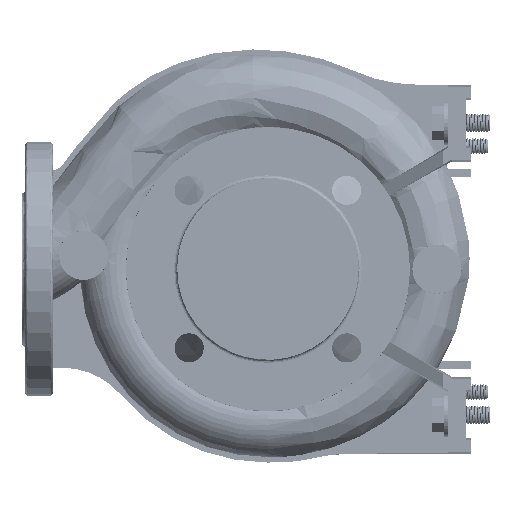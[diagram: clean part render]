
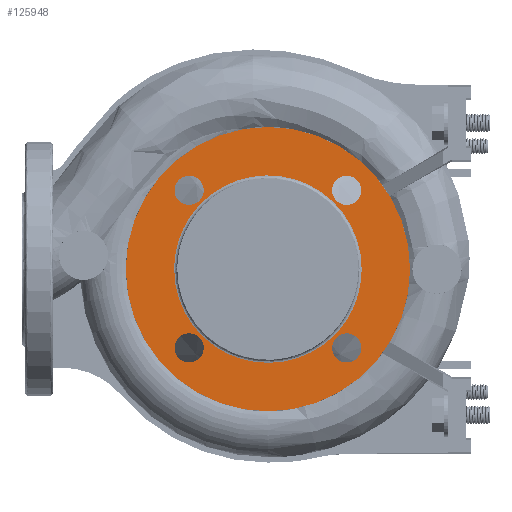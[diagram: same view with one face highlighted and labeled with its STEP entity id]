
A CAD part, left-side view. The second image highlights one B-rep face of the part: STEP entity #125948.
In plain terms, the highlighted planar face has unit normal (-1, 0, 0).
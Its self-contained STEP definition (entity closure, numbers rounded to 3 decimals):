
#1210 = DIRECTION ( 'NONE',  ( 0., 0., 1. ) ) ;
#3000 = CIRCLE ( 'NONE', #141566, 9.5 ) ;
#5087 = VERTEX_POINT ( 'NONE', #12984 ) ;
#7118 = CIRCLE ( 'NONE', #175030, 9.5 ) ;
#8413 = CARTESIAN_POINT ( 'NONE',  ( -35.097, 159.44, 365.134 ) ) ;
#8623 = AXIS2_PLACEMENT_3D ( 'NONE', #37913, #94169, #150460 ) ;
#12984 = CARTESIAN_POINT ( 'NONE',  ( -35.097, 47.175, 201.369 ) ) ;
#13659 = CARTESIAN_POINT ( 'NONE',  ( -35.097, 98.44, 243.134 ) ) ;
#13784 = EDGE_CURVE ( 'NONE', #130124, #5087, #128079, .T. ) ;
#15324 =( BOUNDED_CURVE ( )  B_SPLINE_CURVE ( 3, ( #129895, #41423, #143743, #140123 ),
 .UNSPECIFIED., .F., .T. ) 
 B_SPLINE_CURVE_WITH_KNOTS ( ( 4, 4 ),
 ( 0., 1. ),
 .UNSPECIFIED. ) 
 CURVE ( )  GEOMETRIC_REPRESENTATION_ITEM ( )  RATIONAL_B_SPLINE_CURVE ( ( 0.957, 0.319, 0.319, 0.957 ) ) 
 REPRESENTATION_ITEM ( '' )  );
#15371 = AXIS2_PLACEMENT_3D ( 'NONE', #103516, #159792, #160698 ) ;
#16060 = VERTEX_POINT ( 'NONE', #78260 ) ;
#16064 = VERTEX_POINT ( 'NONE', #33103 ) ;
#16895 = EDGE_CURVE ( 'NONE', #5087, #130124, #63879, .T. ) ;
#20071 = VERTEX_POINT ( 'NONE', #155991 ) ;
#21388 = CARTESIAN_POINT ( 'NONE',  ( -35.097, 149.705, 191.869 ) ) ;
#21933 = DIRECTION ( 'NONE',  ( 0., 0., 1. ) ) ;
#23536 = ORIENTED_EDGE ( 'NONE', *, *, #56738, .F. ) ;
#24789 = DIRECTION ( 'NONE',  ( 0., 0., 1. ) ) ;
#26061 = EDGE_CURVE ( 'NONE', #60138, #127214, #146447, .T. ) ;
#27771 = ORIENTED_EDGE ( 'NONE', *, *, #16895, .F. ) ;
#30728 = CARTESIAN_POINT ( 'NONE',  ( -35.097, 47.175, 294.4 ) ) ;
#33103 = CARTESIAN_POINT ( 'NONE',  ( -35.097, 149.705, 284.9 ) ) ;
#33713 = DIRECTION ( 'NONE',  ( 0., 0., 1. ) ) ;
#37913 = CARTESIAN_POINT ( 'NONE',  ( -35.097, 149.705, 294.4 ) ) ;
#38221 = EDGE_LOOP ( 'NONE', ( #76242, #133823 ) ) ;
#38583 = DIRECTION ( 'NONE',  ( 0., 0., 1. ) ) ;
#39171 = ORIENTED_EDGE ( 'NONE', *, *, #49428, .F. ) ;
#41423 = CARTESIAN_POINT ( 'NONE',  ( -35.097, 159.44, 121.134 ) ) ;
#45973 = VERTEX_POINT ( 'NONE', #92880 ) ;
#47263 = FACE_BOUND ( 'NONE', #177277, .T. ) ;
#47545 = EDGE_LOOP ( 'NONE', ( #150760, #23536 ) ) ;
#48424 = EDGE_LOOP ( 'NONE', ( #54658, #60818 ) ) ;
#49428 = EDGE_CURVE ( 'NONE', #126243, #16060, #60292, .T. ) ;
#49550 = CIRCLE ( 'NONE', #55486, 9.5 ) ;
#54658 = ORIENTED_EDGE ( 'NONE', *, *, #120919, .F. ) ;
#55189 = DIRECTION ( 'NONE',  ( -1., 0., 0. ) ) ;
#55486 = AXIS2_PLACEMENT_3D ( 'NONE', #30728, #182041, #1210 ) ;
#56738 = EDGE_CURVE ( 'NONE', #135979, #20071, #95100, .T. ) ;
#58485 = CARTESIAN_POINT ( 'NONE',  ( -35.097, 149.705, 191.869 ) ) ;
#59786 = CIRCLE ( 'NONE', #130488, 92.5 ) ;
#60138 = VERTEX_POINT ( 'NONE', #66855 ) ;
#60292 =( BOUNDED_CURVE ( )  B_SPLINE_CURVE ( 3, ( #108012, #179029, #8413, #165196 ),
 .UNSPECIFIED., .F., .F. ) 
 B_SPLINE_CURVE_WITH_KNOTS ( ( 4, 4 ),
 ( 0., 1. ),
 .UNSPECIFIED. ) 
 CURVE ( )  GEOMETRIC_REPRESENTATION_ITEM ( )  RATIONAL_B_SPLINE_CURVE ( ( 0.957, 0.319, 0.319, 0.957 ) ) 
 REPRESENTATION_ITEM ( '' )  );
#60818 = ORIENTED_EDGE ( 'NONE', *, *, #100046, .F. ) ;
#62916 = FACE_OUTER_BOUND ( 'NONE', #38221, .T. ) ;
#63879 = CIRCLE ( 'NONE', #166973, 9.5 ) ;
#66855 = CARTESIAN_POINT ( 'NONE',  ( -35.097, 149.705, 182.369 ) ) ;
#71881 = EDGE_CURVE ( 'NONE', #127214, #60138, #7118, .T. ) ;
#72179 = CARTESIAN_POINT ( 'NONE',  ( -35.097, 47.175, 182.369 ) ) ;
#76242 = ORIENTED_EDGE ( 'NONE', *, *, #149860, .T. ) ;
#77659 = DIRECTION ( 'NONE',  ( 0., 0., 1. ) ) ;
#78260 = CARTESIAN_POINT ( 'NONE',  ( -35.097, 159.44, 243.134 ) ) ;
#78629 = ORIENTED_EDGE ( 'NONE', *, *, #26061, .F. ) ;
#81716 = CARTESIAN_POINT ( 'NONE',  ( -35.097, 149.705, 201.369 ) ) ;
#81899 = CARTESIAN_POINT ( 'NONE',  ( -35.097, 47.175, 294.4 ) ) ;
#83243 = AXIS2_PLACEMENT_3D ( 'NONE', #118817, #91116, #21933 ) ;
#84744 = CARTESIAN_POINT ( 'NONE',  ( -35.097, 37.44, 243.134 ) ) ;
#90865 = CARTESIAN_POINT ( 'NONE',  ( -35.097, 47.175, 191.869 ) ) ;
#91116 = DIRECTION ( 'NONE',  ( -1., 0., 0. ) ) ;
#91486 = FACE_BOUND ( 'NONE', #113835, .T. ) ;
#92765 = ORIENTED_EDGE ( 'NONE', *, *, #13784, .F. ) ;
#92880 = CARTESIAN_POINT ( 'NONE',  ( -35.097, 149.705, 303.9 ) ) ;
#94169 = DIRECTION ( 'NONE',  ( -1., 0., 0. ) ) ;
#95100 = CIRCLE ( 'NONE', #159912, 9.5 ) ;
#95175 = DIRECTION ( 'NONE',  ( -1., 0., 0. ) ) ;
#100046 = EDGE_CURVE ( 'NONE', #16064, #45973, #132277, .T. ) ;
#103516 = CARTESIAN_POINT ( 'NONE',  ( -35.097, 4.83, 149.524 ) ) ;
#104753 = EDGE_LOOP ( 'NONE', ( #154659, #39171 ) ) ;
#108012 = CARTESIAN_POINT ( 'NONE',  ( -35.097, 37.44, 243.134 ) ) ;
#111899 = CARTESIAN_POINT ( 'NONE',  ( -35.097, 47.175, 284.9 ) ) ;
#113835 = EDGE_LOOP ( 'NONE', ( #152854, #78629 ) ) ;
#114759 = DIRECTION ( 'NONE',  ( 0., 0., 1. ) ) ;
#118039 = CARTESIAN_POINT ( 'NONE',  ( -35.097, 47.175, 191.869 ) ) ;
#118262 = FACE_BOUND ( 'NONE', #48424, .T. ) ;
#118817 = CARTESIAN_POINT ( 'NONE',  ( -35.097, 98.44, 243.134 ) ) ;
#119081 = VERTEX_POINT ( 'NONE', #155008 ) ;
#120919 = EDGE_CURVE ( 'NONE', #45973, #16064, #3000, .T. ) ;
#120993 = DIRECTION ( 'NONE',  ( -1., 0., 0. ) ) ;
#125179 = AXIS2_PLACEMENT_3D ( 'NONE', #118039, #146616, #132797 ) ;
#125948 = ADVANCED_FACE ( 'NONE', ( #177259, #118262, #91486, #47263, #132120, #62916 ), #174542, .F. ) ;
#126243 = VERTEX_POINT ( 'NONE', #84744 ) ;
#126267 = EDGE_CURVE ( 'NONE', #16060, #126243, #15324, .T. ) ;
#127214 = VERTEX_POINT ( 'NONE', #81716 ) ;
#127745 = CARTESIAN_POINT ( 'NONE',  ( -35.097, 149.705, 294.4 ) ) ;
#128079 = CIRCLE ( 'NONE', #125179, 9.5 ) ;
#128848 = CARTESIAN_POINT ( 'NONE',  ( -35.097, 98.44, 335.634 ) ) ;
#129895 = CARTESIAN_POINT ( 'NONE',  ( -35.097, 159.44, 243.134 ) ) ;
#130124 = VERTEX_POINT ( 'NONE', #72179 ) ;
#130471 = DIRECTION ( 'NONE',  ( -1., 0., 0. ) ) ;
#130488 = AXIS2_PLACEMENT_3D ( 'NONE', #13659, #55189, #24789 ) ;
#132120 = FACE_BOUND ( 'NONE', #47545, .T. ) ;
#132277 = CIRCLE ( 'NONE', #8623, 9.5 ) ;
#132797 = DIRECTION ( 'NONE',  ( 0., 0., 1. ) ) ;
#133823 = ORIENTED_EDGE ( 'NONE', *, *, #167926, .T. ) ;
#135979 = VERTEX_POINT ( 'NONE', #111899 ) ;
#140123 = CARTESIAN_POINT ( 'NONE',  ( -35.097, 37.44, 243.134 ) ) ;
#140682 = DIRECTION ( 'NONE',  ( 0., 0., 1. ) ) ;
#141566 = AXIS2_PLACEMENT_3D ( 'NONE', #127745, #130471, #140682 ) ;
#143115 = VERTEX_POINT ( 'NONE', #128848 ) ;
#143743 = CARTESIAN_POINT ( 'NONE',  ( -35.097, 37.44, 121.134 ) ) ;
#146447 = CIRCLE ( 'NONE', #149501, 9.5 ) ;
#146616 = DIRECTION ( 'NONE',  ( -1., 0., 0. ) ) ;
#149501 = AXIS2_PLACEMENT_3D ( 'NONE', #58485, #157187, #114759 ) ;
#149860 = EDGE_CURVE ( 'NONE', #143115, #119081, #156441, .T. ) ;
#150460 = DIRECTION ( 'NONE',  ( 0., 0., 1. ) ) ;
#150760 = ORIENTED_EDGE ( 'NONE', *, *, #175152, .F. ) ;
#152854 = ORIENTED_EDGE ( 'NONE', *, *, #71881, .F. ) ;
#154659 = ORIENTED_EDGE ( 'NONE', *, *, #126267, .F. ) ;
#155008 = CARTESIAN_POINT ( 'NONE',  ( -35.097, 98.44, 150.634 ) ) ;
#155991 = CARTESIAN_POINT ( 'NONE',  ( -35.097, 47.175, 303.9 ) ) ;
#156441 = CIRCLE ( 'NONE', #83243, 92.5 ) ;
#157187 = DIRECTION ( 'NONE',  ( -1., 0., 0. ) ) ;
#159792 = DIRECTION ( 'NONE',  ( 1., 0., 0. ) ) ;
#159912 = AXIS2_PLACEMENT_3D ( 'NONE', #81899, #181498, #38583 ) ;
#160698 = DIRECTION ( 'NONE',  ( 0., 1., 0. ) ) ;
#165196 = CARTESIAN_POINT ( 'NONE',  ( -35.097, 159.44, 243.134 ) ) ;
#166973 = AXIS2_PLACEMENT_3D ( 'NONE', #90865, #95175, #33713 ) ;
#167926 = EDGE_CURVE ( 'NONE', #119081, #143115, #59786, .T. ) ;
#174542 = PLANE ( 'NONE',  #15371 ) ;
#175030 = AXIS2_PLACEMENT_3D ( 'NONE', #21388, #120993, #77659 ) ;
#175152 = EDGE_CURVE ( 'NONE', #20071, #135979, #49550, .T. ) ;
#177259 = FACE_BOUND ( 'NONE', #104753, .T. ) ;
#177277 = EDGE_LOOP ( 'NONE', ( #27771, #92765 ) ) ;
#179029 = CARTESIAN_POINT ( 'NONE',  ( -35.097, 37.44, 365.134 ) ) ;
#181498 = DIRECTION ( 'NONE',  ( -1., 0., 0. ) ) ;
#182041 = DIRECTION ( 'NONE',  ( -1., 0., 0. ) ) ;
